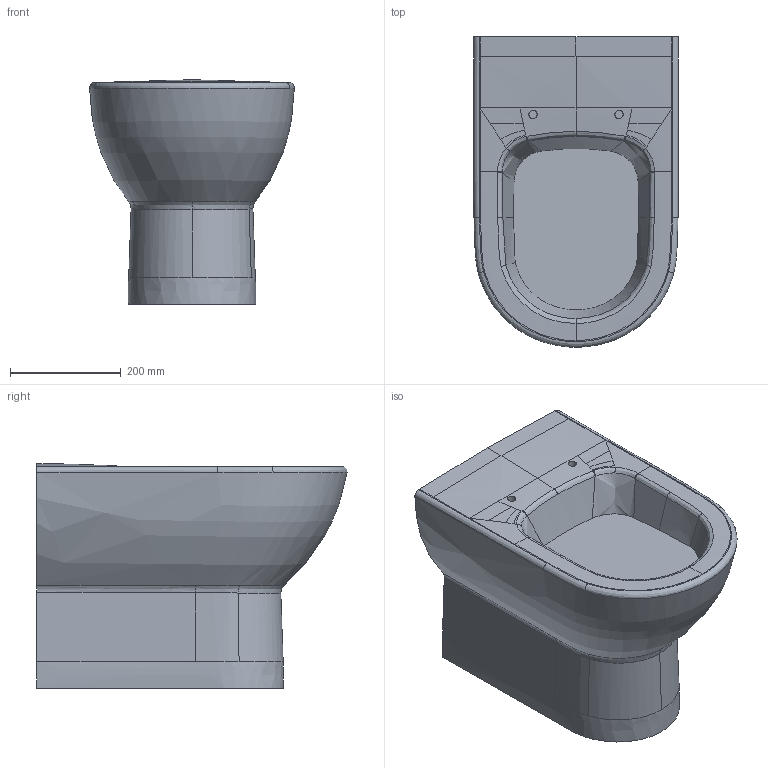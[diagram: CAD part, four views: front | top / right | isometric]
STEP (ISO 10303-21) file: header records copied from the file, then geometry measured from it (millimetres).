
FILE_DESCRIPTION(/* description */ (''),/* implementation_level */ '2;1');
FILE_NAME(/* name */ '660710_Subway_STWC_BTW.stp',/* time_stamp */ '2019-02-27T09:50:35+01:00',/* author */ (''),/* organization */ (''),/* preprocessor_version */ 'ST-DEVELOPER v16',/* originating_system */ 'SIEMENS PLM Software NX 10.0',/* authorisation */ '');
FILE_SCHEMA (('AUTOMOTIVE_DESIGN { 1 0 10303 214 3 1 1 1 }'));
Length unit declared in the file: millimetre
Products named in the file (1): math30088B4Bknv8
Bounding box: 369.18 x 559.67 x 405 mm (x, y, z)
Volume: 46970645 mm3; surface area: 917358.4 mm2
Topology: 1 solids, 1 shells, 69 faces, 174 edges, 109 vertices
Faces by surface type: bspline 61, plane 6, cylinder 2
Full cylindrical faces by diameter (mm): 15 x2
Entity records: 9238 total; most frequent: CARTESIAN_POINT 8055, ORIENTED_EDGE 344, EDGE_CURVE 172, B_SPLINE_CURVE_WITH_KNOTS 138, VERTEX_POINT 109, EDGE_LOOP 73, ADVANCED_FACE 69, FACE_OUTER_BOUND 65
